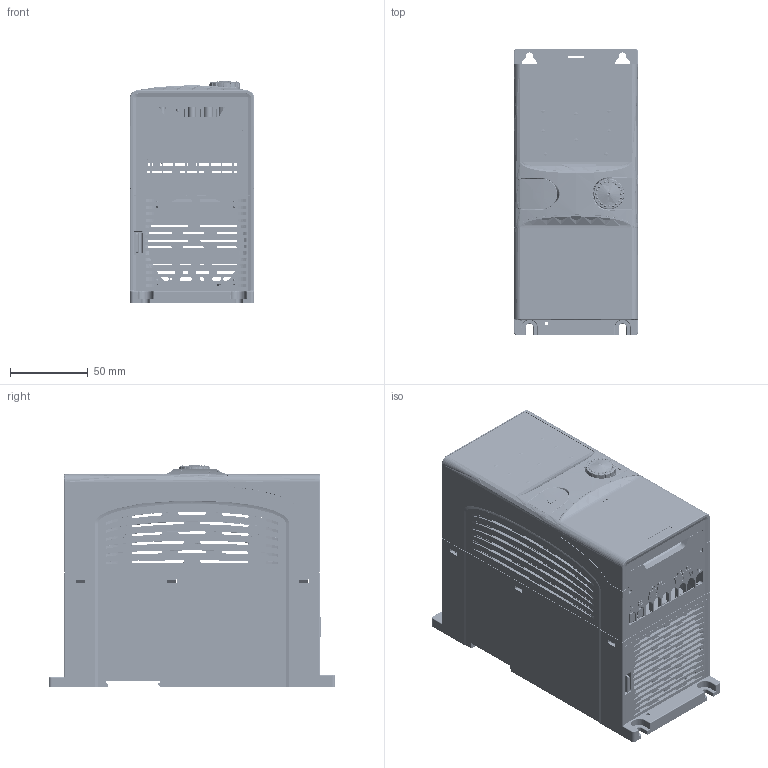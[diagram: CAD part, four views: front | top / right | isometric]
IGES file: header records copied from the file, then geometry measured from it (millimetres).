
Start section: SolidWorks IGES file using analytic representation for surfaces
Global section: file name: Z:\Products\VFD\UMI-B1\UMI-B1 (GD20 series)  3D file\GD20-2R2G-4-UL\3D CAD Files\GD20-2R2G-4-UL.IGS; native system: SolidWorks 2017; preprocessor: SolidWorks 2017; author: LaorB; date: 200325.162512; units: millimetre
Bounding box: 80 x 185 x 143.54 mm (x, y, z)
Surface area: 251533.3 mm2 (no closed solid volume)
Topology: 0 solids, 0 shells, 5509 faces, 47878 edges, 47748 vertices
Faces by surface type: bspline 4087, revolution 1422
